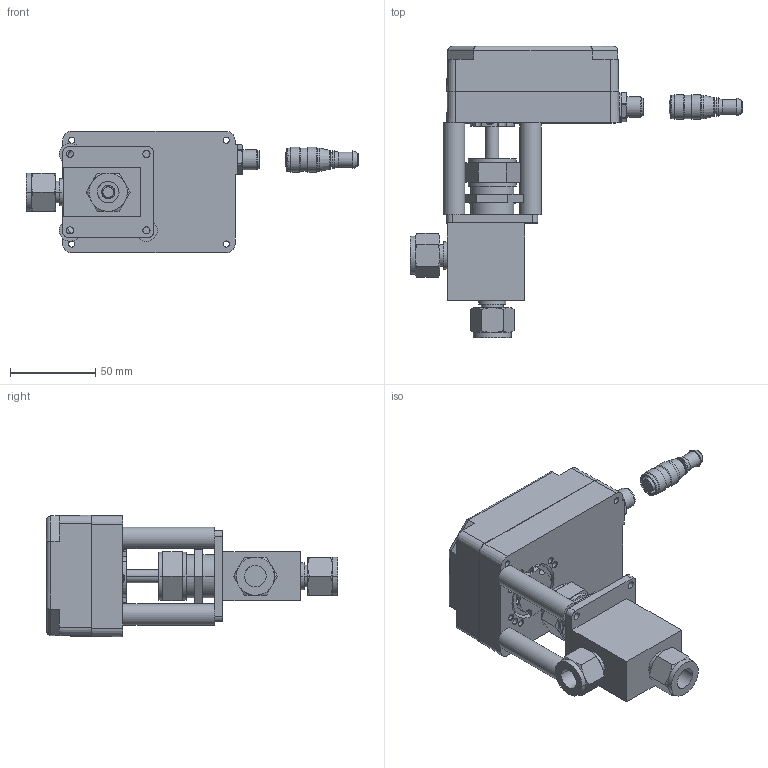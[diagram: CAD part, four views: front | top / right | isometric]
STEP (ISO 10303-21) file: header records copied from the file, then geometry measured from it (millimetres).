
FILE_DESCRIPTION (( 'STEP AP203' ), '1' );
FILE_NAME ('#M-Series Assembly w. 18RS8-A (Client Copy).STEP', '2020-09-02T14:39:17', ( 'Technician #5' ), ( '' ), 'SwSTEP 2.0', 'SolidWorks 2020', '' );
FILE_SCHEMA (( 'CONFIG_CONTROL_DESIGN' ));
Length unit declared in the file: inch
Products named in the file (1): #M-Series Assembly w. 18RS8-A (Client Copy)
Bounding box: 194.92 x 170.94 x 71.52 mm (x, y, z)
Surface area: 74041.2 mm2 (no closed solid volume)
Topology: 0 solids, 19 shells, 275 faces, 983 edges, 730 vertices
Faces by surface type: cylinder 103, plane 98, cone 65, bspline 8, torus 1
Full cylindrical faces by diameter (mm): 3.568 x8, 3.569 x7, 4.216 x4, 4.914 x4, 5.41 x4, 8 x1, 8.3 x1, 8.8 x1, 10.5 x1, 10.8 x1, 11.15 x1, 12 x1, 12.3 x1, 12.7 x3, 13.7 x3, 14.5 x2, 31.75 x1
Entity records: 15532 total; most frequent: CARTESIAN_POINT 8214, ORIENTED_EDGE 1348, DIRECTION 1299, EDGE_CURVE 868, VERTEX_POINT 692, AXIS2_PLACEMENT_3D 531, EDGE_LOOP 422, B_SPLINE_CURVE_WITH_KNOTS 352
